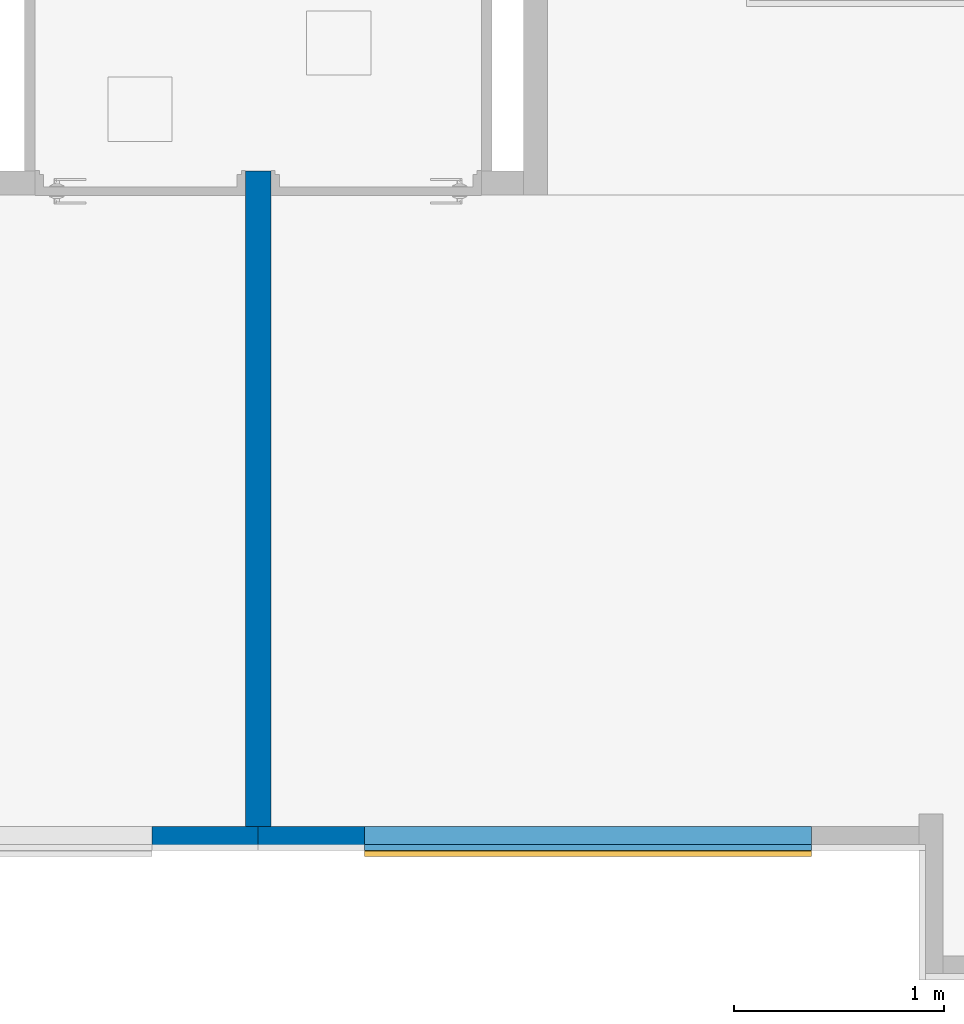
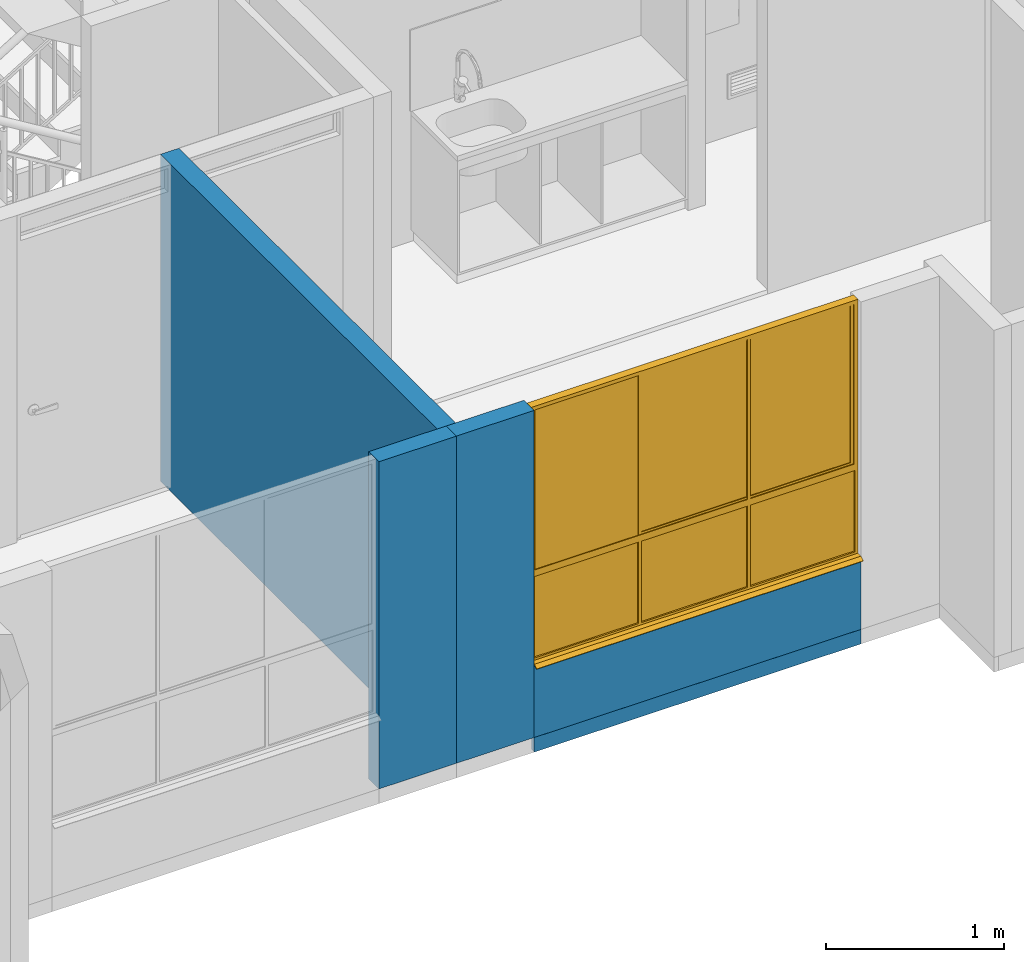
# One storey, part 11 of 51: 5 walls, 1 window, 1 opening.
"""IFC4 building model written with IfcOpenShell, lengths in metres."""

from ifc_helpers import new_model, entity, si_unit, converted_unit, derived_unit, direction, frame, origin, place, context, subcontext, project, spatial, indexed_curve, outline, extrude, polygons, source, transform, mapped, material, constituent, constituent_set, type_object, type_shapes, element, fill, save


model = new_model("IFC4")

# Units and contexts
model_context = context("Model", 3, precision=1e-05, world=origin(), true_north=direction((6.123031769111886e-17, 1.0)))
body_context = subcontext(model_context, "Body", "Model", "MODEL_VIEW")
ifc_project = project(units=[si_unit("LENGTHUNIT", "METRE"), si_unit("AREAUNIT", "SQUARE_METRE"), si_unit("VOLUMEUNIT", "CUBIC_METRE"), converted_unit("PLANEANGLEUNIT", "DEGREE", entity("IfcRatioMeasure", 0.017453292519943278), si_unit("PLANEANGLEUNIT", "RADIAN"), dimensions=[0, 0, 0, 0, 0, 0, 0]), si_unit("MASSUNIT", "GRAM", prefix="KILO"), derived_unit("MASSDENSITYUNIT", [(si_unit("MASSUNIT", "GRAM", prefix="KILO"), 1), (si_unit("LENGTHUNIT", "METRE"), -3)]), derived_unit("IONCONCENTRATIONUNIT", [(si_unit("MASSUNIT", "GRAM", prefix="KILO"), 1), (si_unit("LENGTHUNIT", "METRE"), -3)]), derived_unit("MOMENTOFINERTIAUNIT", [(si_unit("LENGTHUNIT", "METRE"), 4)]), si_unit("TIMEUNIT", "SECOND"), si_unit("FREQUENCYUNIT", "HERTZ"), si_unit("THERMODYNAMICTEMPERATUREUNIT", "DEGREE_CELSIUS"), derived_unit("THERMALTRANSMITTANCEUNIT", [(si_unit("MASSUNIT", "GRAM", prefix="KILO"), 1), (si_unit("THERMODYNAMICTEMPERATUREUNIT", "KELVIN"), -1), (si_unit("TIMEUNIT", "SECOND"), -3)]), derived_unit("THERMALCONDUCTANCEUNIT", [(si_unit("MASSUNIT", "GRAM", prefix="KILO"), 1), (si_unit("THERMODYNAMICTEMPERATUREUNIT", "KELVIN"), -1), (si_unit("TIMEUNIT", "SECOND"), -3), (si_unit("LENGTHUNIT", "METRE"), 1)]), derived_unit("VOLUMETRICFLOWRATEUNIT", [(si_unit("LENGTHUNIT", "METRE"), 3), (si_unit("TIMEUNIT", "SECOND"), -1)]), derived_unit("MASSFLOWRATEUNIT", [(si_unit("MASSUNIT", "GRAM", prefix="KILO"), 1), (si_unit("TIMEUNIT", "SECOND"), -1)]), derived_unit("ROTATIONALFREQUENCYUNIT", [(si_unit("TIMEUNIT", "SECOND"), -1)]), si_unit("ELECTRICCURRENTUNIT", "AMPERE"), si_unit("ELECTRICVOLTAGEUNIT", "VOLT"), si_unit("POWERUNIT", "WATT"), si_unit("FORCEUNIT", "NEWTON", prefix="KILO"), si_unit("ILLUMINANCEUNIT", "LUX"), si_unit("LUMINOUSFLUXUNIT", "LUMEN"), si_unit("LUMINOUSINTENSITYUNIT", "CANDELA"), derived_unit("USERDEFINED", [(si_unit("MASSUNIT", "GRAM", prefix="KILO"), -1), (si_unit("LENGTHUNIT", "METRE"), -2), (si_unit("TIMEUNIT", "SECOND"), 3), (si_unit("LUMINOUSFLUXUNIT", "LUMEN"), 1)]), derived_unit("USERDEFINED", [(si_unit("MASSUNIT", "GRAM", prefix="KILO"), 1), (si_unit("TIMEUNIT", "SECOND"), -3), (si_unit("LENGTHUNIT", "METRE"), 3), (si_unit("ELECTRICCURRENTUNIT", "AMPERE"), -2)]), derived_unit("SOUNDPOWERUNIT", [(si_unit("MASSUNIT", "GRAM", prefix="KILO"), 1), (si_unit("TIMEUNIT", "SECOND"), -3), (si_unit("LENGTHUNIT", "METRE"), 2)]), derived_unit("SOUNDPRESSUREUNIT", [(si_unit("MASSUNIT", "GRAM", prefix="KILO"), 1), (si_unit("LENGTHUNIT", "METRE"), -1), (si_unit("TIMEUNIT", "SECOND"), -2)]), derived_unit("LINEARVELOCITYUNIT", [(si_unit("LENGTHUNIT", "METRE"), 1), (si_unit("TIMEUNIT", "SECOND"), -1)]), si_unit("PRESSUREUNIT", "PASCAL"), derived_unit("USERDEFINED", [(si_unit("MASSUNIT", "GRAM", prefix="KILO"), 1), (si_unit("LENGTHUNIT", "METRE"), -2), (si_unit("TIMEUNIT", "SECOND"), -2)]), derived_unit("LINEARFORCEUNIT", [(si_unit("MASSUNIT", "GRAM", prefix="KILO"), 1), (si_unit("TIMEUNIT", "SECOND"), -2)]), derived_unit("PLANARFORCEUNIT", [(si_unit("MASSUNIT", "GRAM", prefix="KILO"), 1), (si_unit("LENGTHUNIT", "METRE"), -1), (si_unit("TIMEUNIT", "SECOND"), -2)]), derived_unit("SPECIFICHEATCAPACITYUNIT", [(si_unit("THERMODYNAMICTEMPERATUREUNIT", "KELVIN"), -1), (si_unit("LENGTHUNIT", "METRE"), 2), (si_unit("TIMEUNIT", "SECOND"), -2)]), derived_unit("HEATINGVALUEUNIT", [(si_unit("LENGTHUNIT", "METRE"), 2), (si_unit("TIMEUNIT", "SECOND"), -2)]), derived_unit("VAPORPERMEABILITYUNIT", [(si_unit("LENGTHUNIT", "METRE"), -1), (si_unit("TIMEUNIT", "SECOND"), 1)]), derived_unit("DYNAMICVISCOSITYUNIT", [(si_unit("MASSUNIT", "GRAM", prefix="KILO"), 1), (si_unit("TIMEUNIT", "SECOND"), -1), (si_unit("LENGTHUNIT", "METRE"), -1)]), derived_unit("THERMALEXPANSIONCOEFFICIENTUNIT", [(si_unit("THERMODYNAMICTEMPERATUREUNIT", "KELVIN"), -1)]), derived_unit("MODULUSOFELASTICITYUNIT", [(si_unit("MASSUNIT", "GRAM", prefix="KILO"), 1), (si_unit("LENGTHUNIT", "METRE"), -1), (si_unit("TIMEUNIT", "SECOND"), -2)]), derived_unit("ISOTHERMALMOISTURECAPACITYUNIT", [(si_unit("LENGTHUNIT", "METRE"), 3), (si_unit("MASSUNIT", "GRAM", prefix="KILO"), -1)]), derived_unit("MOISTUREDIFFUSIVITYUNIT", [(si_unit("TIMEUNIT", "SECOND"), -1), (si_unit("LENGTHUNIT", "METRE"), 2)])], contexts=[model_context])

# Site, building, storey
site_placement = place(None, origin())
site = spatial("IfcSite", under=ifc_project, at=site_placement, Name="Default", CompositionType="ELEMENT")
building_placement = place(site_placement, origin())
building = spatial("IfcBuilding", under=site, at=building_placement, CompositionType="ELEMENT")
storey_placement = place(building_placement, frame((0.0, 0.0, 2.350000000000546)))
storey = spatial("IfcBuildingStorey", under=building, at=storey_placement, Name="Nivel 2", CompositionType="ELEMENT", Elevation=2.350000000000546)

# Wall
ifc_material_1 = material(Name="Concreto (Aire)", Category="Materials")
wall_type_1 = type_object("IfcWallType", Name="Basic Wall:B2010 - 0.12m - Muro interior en concreto", PredefinedType="STANDARD")
wall_1_placement = place(storey_placement, frame((9.322500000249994, -9.024999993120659, 0.0), z_axis=(0.0, 0.0, 1.0), x_axis=(0.0, -1.0, 0.0)))
element("IfcWall", 1, at=wall_1_placement, inside=storey, type_object=wall_type_1, material=ifc_material_1, Name="Basic Wall:B2010 - 0.12m - Muro interior en concreto", ObjectType="Basic Wall:B2010 - 0.12m - Muro interior en concreto", PredefinedType="NOTDEFINED", context=body_context, shape_type="SweptSolid", body=[
    extrude(outline(indexed_curve([(3.1150000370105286, 0.06000000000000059), (-1.0719303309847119e-16, 0.060000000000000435), (1.0719303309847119e-16, -0.060000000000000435), (3.1150000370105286, -0.06000000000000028), (3.1150000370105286, 0.06000000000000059)], self_intersect=False)), origin(), (0.0, 0.0, 1.0), 2.2500000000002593),
])

# Wall, opening, window
ifc_material_2 = material(Name="Ladrillo claro (Aire)", Category="Materials")
wall_type_2 = type_object("IfcWallType", Name="Basic Wall:B2010 - 0.115m - Muro exterior en mampostería - Ladrillo", PredefinedType="STANDARD")
wall_2_placement = place(storey_placement, frame((11.952500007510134, -12.197500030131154, 0.0), z_axis=(0.0, 0.0, 1.0), x_axis=(-1.0, 0.0, 0.0)))
wall_2 = element("IfcWall", 2, at=wall_2_placement, inside=storey, type_object=wall_type_2, material=ifc_material_2, Name="Basic Wall:B2010 - 0.115m - Muro exterior en mampostería - Ladrillo", ObjectType="Basic Wall:B2010 - 0.115m - Muro exterior en mampostería - Ladrillo", PredefinedType="NOTDEFINED", context=body_context, shape_type="Tessellation", body=[
    polygons([(1.6266871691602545e-15, -0.057499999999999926, 0.0), (2.1249999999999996, -0.057499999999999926, 0.0), (2.1249999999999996, -0.057499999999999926, 0.49999999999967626), (1.6266871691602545e-15, -0.057499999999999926, 0.49999999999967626), (2.1249999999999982, 0.057499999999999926, 0.0), (6.252360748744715e-16, 0.057499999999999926, 0.0), (6.252360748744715e-16, 0.057499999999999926, 0.49999999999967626), (2.1249999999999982, 0.057499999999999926, 0.49999999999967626)], [[[1, 2, 3, 4]], [[5, 6, 7, 8]], [[2, 1, 6, 5]], [[2, 5, 8, 3]], [[6, 1, 4, 7]], [[4, 3, 8, 7]]], closed=True),
])
opening_placement = place(wall_2_placement, frame((0.0, -0.057499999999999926, 0.4999999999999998)))
opening = element("IfcOpeningElement", 3, at=opening_placement, cuts=wall_2, Name="B2020 - 6c Ventana corrediza - Aluminio + Vidrio:B2020 -2.13m x 1.750m - Ventana corrediza 2C - Aluminio + Vidrio:1", PredefinedType="OPENING", context=body_context, shape_type="SweptSolid", body=[
    extrude(outline(indexed_curve([(0.0, 2.125), (0.0, 0.0), (1.7499999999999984, 0.0), (1.7499999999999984, 2.125), (0.0, 2.125)], self_intersect=False)), frame((0.0, 0.0, 0.0), z_axis=(0.0, 1.0, 0.0), x_axis=(0.0, 0.0, 1.0)), (0.0, 0.0, 1.0), 0.115),
])
ifc_material_3 = material(Name="Aluminio", Category="Materials")
ifc_constituent_1 = constituent(ifc_material_3, Name="Aluminio", Category="Materials")
ifc_material_4 = material(Name="Vidrio", Category="Materials")
ifc_constituent_2 = constituent(ifc_material_4, Name="Vidrio", Category="Materials")
ifc_material_5 = material(Name="Alfajía en aluminio", Category="Materials")
ifc_constituent_3 = constituent(ifc_material_5, Name="Alfajía en aluminio", Category="Materials")
ifc_constituent_set_1 = constituent_set(constituents=[ifc_constituent_1, ifc_constituent_2, ifc_constituent_3])
ifc_constituent_4 = constituent(ifc_material_3, Name="Aluminio", Category="Materials")
ifc_constituent_5 = constituent(ifc_material_4, Name="Vidrio", Category="Materials")
ifc_constituent_6 = constituent(ifc_material_5, Name="Alfajía en aluminio", Category="Materials")
ifc_constituent_set_2 = constituent_set(constituents=[ifc_constituent_4, ifc_constituent_5, ifc_constituent_6])
window_type = type_object("IfcWindowType", Name="B2020 - 6c Ventana corrediza - Aluminio + Vidrio:B2020 -2.13m x 1.750m - Ventana corrediza 2C - Aluminio + Vidrio", PartitioningType="NOTDEFINED", PredefinedType="WINDOW", material=ifc_constituent_set_2)
shared_shape = source(origin(), body_context, "Body", "Tessellation", [
    polygons([(1.3916666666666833, 0.03749999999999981, 1.7249999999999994), (1.3916666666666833, 0.03749999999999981, 0.6249999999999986), (1.391666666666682, 0.032499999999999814, 0.6249999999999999), (1.3916666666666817, 0.032499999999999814, 1.7249999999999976), (-0.6833333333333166, 0.03249999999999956, 0.6249999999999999), (-0.6833333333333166, 0.032499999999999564, 1.7249999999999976), (-0.7083333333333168, 0.03249999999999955, 0.5999999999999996), (1.4166666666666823, 0.032499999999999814, 0.5999999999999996), (1.4166666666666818, 0.032499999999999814, 1.749999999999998), (-0.7083333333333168, 0.03249999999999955, 1.749999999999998), (-0.6833333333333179, 0.03749999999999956, 0.6249999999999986), (-0.6833333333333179, 0.03749999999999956, 1.7249999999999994), (-0.6883333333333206, 0.03749999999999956, 0.6199999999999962), (-0.6883333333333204, 0.03749999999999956, 1.7300000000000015), (1.3966666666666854, 0.03749999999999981, 1.7300000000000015), (1.3966666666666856, 0.03749999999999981, 0.6199999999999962), (1.3966666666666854, 0.05499999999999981, 1.7300000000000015), (1.3966666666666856, 0.05499999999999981, 0.6199999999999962), (-0.6883333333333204, 0.05499999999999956, 0.6199999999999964), (-0.6883333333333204, 0.05499999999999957, 1.7300000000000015), (-0.6833333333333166, 0.05499999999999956, 0.6249999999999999), (-0.6833333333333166, 0.05499999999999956, 1.7249999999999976), (1.3916666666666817, 0.05499999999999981, 1.7249999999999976), (1.391666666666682, 0.05499999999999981, 0.6249999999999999), (1.3916666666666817, 0.05999999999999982, 1.7249999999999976), (1.391666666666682, 0.05999999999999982, 0.6249999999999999), (-0.6833333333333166, 0.059999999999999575, 0.6249999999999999), (-0.6833333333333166, 0.059999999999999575, 1.7249999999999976), (-0.7033333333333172, 0.05999999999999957, 0.6049999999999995), (-0.7033333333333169, 0.05999999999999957, 1.744999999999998), (1.411666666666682, 0.05999999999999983, 1.744999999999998), (1.4116666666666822, 0.05999999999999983, 0.6049999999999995), (1.411666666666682, 0.07749999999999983, 1.744999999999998), (1.4116666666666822, 0.07749999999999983, 0.6049999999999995), (-0.7033333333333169, 0.07749999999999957, 0.6049999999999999), (-0.7033333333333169, 0.07749999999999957, 1.744999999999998), (-0.6833333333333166, 0.07749999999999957, 0.6249999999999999), (-0.6833333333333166, 0.07749999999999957, 1.7249999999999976), (1.3916666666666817, 0.07749999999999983, 1.7249999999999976), (1.391666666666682, 0.07749999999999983, 0.6249999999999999), (1.3916666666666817, 0.08249999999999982, 1.7249999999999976), (1.391666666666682, 0.08249999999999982, 0.6249999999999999), (-0.6833333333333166, 0.08249999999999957, 0.6249999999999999), (-0.6833333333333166, 0.08249999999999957, 1.7249999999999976), (-0.7083333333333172, 0.08249999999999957, 0.5999999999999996), (-0.7083333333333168, 0.08249999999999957, 1.749999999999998), (1.4166666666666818, 0.08249999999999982, 1.749999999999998), (1.4166666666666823, 0.08249999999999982, 0.5999999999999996)], [[[1, 2, 3, 4]], [[7, 8, 9, 10], [5, 6, 4, 3]], [[2, 11, 5, 3]], [[13, 14, 15, 16], [11, 2, 1, 12]], [[17, 18, 16, 15]], [[18, 19, 13, 16]], [[19, 18, 17, 20], [21, 22, 23, 24]], [[25, 26, 24, 23]], [[26, 27, 21, 24]], [[29, 30, 31, 32], [27, 26, 25, 28]], [[33, 34, 32, 31]], [[34, 35, 29, 32]], [[35, 34, 33, 36], [37, 38, 39, 40]], [[41, 42, 40, 39]], [[42, 43, 37, 40]], [[45, 46, 47, 48], [43, 42, 41, 44]], [[9, 8, 48, 47]], [[8, 7, 45, 48]], [[11, 12, 6, 5]], [[19, 20, 14, 13]], [[27, 28, 22, 21]], [[35, 36, 30, 29]], [[43, 44, 38, 37]], [[7, 10, 46, 45]], [[12, 1, 4, 6]], [[20, 17, 15, 14]], [[28, 25, 23, 22]], [[36, 33, 31, 30]], [[44, 41, 39, 38]], [[10, 9, 47, 46]]], closed=True),
    polygons([(-0.009999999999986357, 0.08249999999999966, 0.6249999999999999), (0.010000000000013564, 0.08249999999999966, 0.6249999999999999), (0.010000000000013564, 0.05999999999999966, 0.6249999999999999), (-0.009999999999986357, 0.05999999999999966, 0.6249999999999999), (-0.009999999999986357, 0.08249999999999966, 1.7249999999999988), (-0.009999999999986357, 0.05999999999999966, 1.7249999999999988), (0.010000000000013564, 0.05999999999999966, 1.7249999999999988), (0.010000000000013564, 0.08249999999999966, 1.7249999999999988)], [[[1, 2, 3, 4]], [[5, 1, 4, 6]], [[6, 4, 3, 7]], [[7, 3, 2, 8]], [[8, 2, 1, 5]], [[5, 6, 7, 8]]], closed=True),
    polygons([(0.7108333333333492, 0.06674999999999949, 1.7299999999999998), (-0.6833333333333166, 0.06674999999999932, 1.7299999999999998), (-0.6833333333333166, 0.06674999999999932, 0.6174999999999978), (0.7108333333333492, 0.06674999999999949, 0.6174999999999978), (0.7108333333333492, 0.0707499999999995, 0.6174999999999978), (0.7108333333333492, 0.0707499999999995, 1.7299999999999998), (-0.6833333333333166, 0.07074999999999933, 0.6174999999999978), (-0.6833333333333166, 0.07074999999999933, 1.7299999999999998)], [[[1, 2, 3, 4]], [[4, 5, 6, 1]], [[3, 7, 5, 4]], [[2, 8, 7, 3]], [[6, 5, 7, 8]], [[1, 6, 8, 2]]], closed=True),
    polygons([(0.7108333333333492, 0.07074999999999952, 0.6225000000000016), (-0.6783333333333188, 0.07074999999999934, 0.6225000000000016), (-0.6783333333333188, 0.06674999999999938, 0.6225000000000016), (0.7108333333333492, 0.06674999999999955, 0.6225000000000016), (-0.6783333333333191, 0.07074999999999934, 1.730000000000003), (-0.6783333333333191, 0.06674999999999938, 1.730000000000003), (0.7108333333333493, 0.06674999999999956, 1.730000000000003), (-0.6633333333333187, 0.06674999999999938, 1.7150000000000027), (-0.6633333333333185, 0.06674999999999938, 0.637500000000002), (0.695833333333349, 0.06674999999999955, 0.637500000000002), (0.695833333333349, 0.06674999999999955, 1.7150000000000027), (0.7108333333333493, 0.07074999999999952, 1.730000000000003), (-0.6633333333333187, 0.07074999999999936, 0.637500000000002), (-0.6633333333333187, 0.07074999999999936, 1.7150000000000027), (0.695833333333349, 0.07074999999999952, 1.7150000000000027), (0.695833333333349, 0.07074999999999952, 0.6375000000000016), (0.695833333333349, 0.07549999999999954, 0.637500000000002), (-0.6633333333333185, 0.07549999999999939, 0.6375000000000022), (-0.6633333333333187, 0.07549999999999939, 1.7150000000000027), (0.695833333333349, 0.07549999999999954, 1.7150000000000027), (-0.6833333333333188, 0.07549999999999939, 0.6175000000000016), (-0.683333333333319, 0.07549999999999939, 1.735000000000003), (0.7158333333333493, 0.07549999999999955, 1.735000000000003), (0.7158333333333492, 0.07549999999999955, 0.6175000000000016), (0.7158333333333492, 0.06199999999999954, 0.6175000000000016), (-0.6833333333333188, 0.061999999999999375, 0.6175000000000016), (-0.683333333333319, 0.061999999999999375, 1.735000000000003), (0.7158333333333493, 0.06199999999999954, 1.735000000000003), (-0.6633333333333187, 0.06199999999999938, 0.637500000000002), (-0.6633333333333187, 0.06199999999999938, 1.7150000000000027), (0.695833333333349, 0.06199999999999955, 1.7150000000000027), (0.695833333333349, 0.06199999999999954, 0.6375000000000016)], [[[1, 2, 3, 4]], [[2, 5, 6, 3]], [[3, 6, 7, 4], [8, 9, 10, 11]], [[5, 2, 1, 12], [13, 14, 15, 16]], [[17, 18, 13, 16]], [[18, 19, 14, 13]], [[21, 22, 23, 24], [19, 18, 17, 20]], [[25, 26, 21, 24]], [[26, 27, 22, 21]], [[27, 26, 25, 28], [29, 30, 31, 32]], [[10, 9, 29, 32]], [[9, 8, 30, 29]], [[12, 1, 4, 7]], [[20, 17, 16, 15]], [[28, 25, 24, 23]], [[11, 10, 32, 31]], [[5, 12, 7, 6]], [[19, 20, 15, 14]], [[27, 28, 23, 22]], [[8, 11, 31, 30]]], closed=True),
    polygons([(1.3916666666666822, 0.04424999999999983, 1.7299999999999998), (0.7033333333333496, 0.04424999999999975, 1.7299999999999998), (0.7033333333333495, 0.04424999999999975, 0.6174999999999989), (1.391666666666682, 0.04424999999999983, 0.6174999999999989), (1.391666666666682, 0.04824999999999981, 0.6174999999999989), (1.3916666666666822, 0.04824999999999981, 1.7299999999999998), (0.7033333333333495, 0.048249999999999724, 0.6174999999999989), (0.7033333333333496, 0.048249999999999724, 1.7299999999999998)], [[[1, 2, 3, 4]], [[4, 5, 6, 1]], [[3, 7, 5, 4]], [[2, 8, 7, 3]], [[6, 5, 7, 8]], [[1, 6, 8, 2]]], closed=True),
    polygons([(1.391666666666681, 0.04824999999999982, 0.6224999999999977), (0.7033333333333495, 0.04824999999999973, 0.6224999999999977), (0.7033333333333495, 0.044249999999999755, 0.6224999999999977), (1.391666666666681, 0.04424999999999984, 0.6224999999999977), (0.7033333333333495, 0.04824999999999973, 1.729999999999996), (0.7033333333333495, 0.044249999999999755, 1.729999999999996), (1.391666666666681, 0.04424999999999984, 1.729999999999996), (0.7183333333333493, 0.044249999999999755, 1.714999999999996), (0.7183333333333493, 0.044249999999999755, 0.6374999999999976), (1.3766666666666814, 0.04424999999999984, 0.6374999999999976), (1.3766666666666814, 0.04424999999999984, 1.714999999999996), (1.391666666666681, 0.04824999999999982, 1.729999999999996), (0.7183333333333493, 0.04824999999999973, 0.6374999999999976), (0.7183333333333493, 0.04824999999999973, 1.714999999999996), (1.3766666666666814, 0.04824999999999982, 1.714999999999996), (1.3766666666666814, 0.04824999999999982, 0.6374999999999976), (1.3766666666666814, 0.052999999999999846, 0.6374999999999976), (0.7183333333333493, 0.05299999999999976, 0.6374999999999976), (0.7183333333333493, 0.05299999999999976, 1.714999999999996), (1.3766666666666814, 0.052999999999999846, 1.714999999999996), (0.6983333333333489, 0.052999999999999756, 0.6174999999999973), (0.6983333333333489, 0.05299999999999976, 1.7349999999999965), (1.3966666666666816, 0.052999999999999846, 1.7349999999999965), (1.3966666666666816, 0.052999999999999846, 0.6174999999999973), (1.3966666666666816, 0.03949999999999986, 0.6174999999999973), (0.6983333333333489, 0.03949999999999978, 0.6174999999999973), (0.6983333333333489, 0.03949999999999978, 1.7349999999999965), (1.3966666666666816, 0.03949999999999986, 1.7349999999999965), (0.7183333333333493, 0.039499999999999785, 0.6374999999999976), (0.7183333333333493, 0.03949999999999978, 1.714999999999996), (1.3766666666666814, 0.039499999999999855, 1.714999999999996), (1.3766666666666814, 0.039499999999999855, 0.6374999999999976)], [[[1, 2, 3, 4]], [[2, 5, 6, 3]], [[3, 6, 7, 4], [8, 9, 10, 11]], [[5, 2, 1, 12], [13, 14, 15, 16]], [[17, 18, 13, 16]], [[18, 19, 14, 13]], [[21, 22, 23, 24], [19, 18, 17, 20]], [[25, 26, 21, 24]], [[26, 27, 22, 21]], [[27, 26, 25, 28], [29, 30, 31, 32]], [[10, 9, 29, 32]], [[9, 8, 30, 29]], [[12, 1, 4, 7]], [[20, 17, 16, 15]], [[28, 25, 24, 23]], [[11, 10, 32, 31]], [[5, 12, 7, 6]], [[19, 20, 15, 14]], [[27, 28, 23, 22]], [[8, 11, 31, 30]]], closed=True),
    polygons([(-0.6883333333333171, 0.04424999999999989, 1.7299999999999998), (-0.6883333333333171, 0.04424999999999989, 0.6174999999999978), (1.3916666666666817, 0.04424999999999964, 0.6174999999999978), (1.3916666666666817, 0.04424999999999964, 1.7299999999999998), (1.3916666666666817, 0.04824999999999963, 0.6174999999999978), (1.3916666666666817, 0.04824999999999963, 1.7299999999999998), (-0.6883333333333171, 0.04824999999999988, 0.6174999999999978), (-0.6883333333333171, 0.04824999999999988, 1.7299999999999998)], [[[1, 2, 3, 4]], [[3, 5, 6, 4]], [[2, 7, 5, 3]], [[1, 8, 7, 2]], [[8, 6, 5, 7]], [[4, 6, 8, 1]]], closed=True),
    polygons([(1.3966666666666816, 0.06674999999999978, 1.7299999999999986), (-0.6883333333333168, 0.06674999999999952, 1.7299999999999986), (-0.6883333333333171, 0.06674999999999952, 0.6174999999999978), (1.3966666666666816, 0.06674999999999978, 0.6174999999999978), (1.3966666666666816, 0.07074999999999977, 0.6174999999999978), (1.3966666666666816, 0.07074999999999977, 1.7299999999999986), (-0.6883333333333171, 0.07074999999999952, 0.6174999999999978), (-0.6883333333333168, 0.07074999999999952, 1.7299999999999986)], [[[1, 2, 3, 4]], [[4, 5, 6, 1]], [[3, 7, 5, 4]], [[2, 8, 7, 3]], [[6, 5, 7, 8]], [[1, 6, 8, 2]]], closed=True),
    polygons([(1.3966666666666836, 0.06813901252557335, 0.5800000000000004), (-0.6883333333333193, 0.06813901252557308, 0.5800000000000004), (-0.6883333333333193, 0.06813901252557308, 0.019999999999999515), (1.3966666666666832, 0.06813901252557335, 0.019999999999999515), (1.3966666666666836, 0.07213901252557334, 0.5800000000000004), (1.3966666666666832, 0.07213901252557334, 0.019999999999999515), (-0.6883333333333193, 0.07213901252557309, 0.019999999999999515), (-0.6883333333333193, 0.07213901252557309, 0.5800000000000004)], [[[1, 2, 3, 4]], [[5, 6, 7, 8]], [[4, 6, 5, 1]], [[3, 7, 6, 4]], [[2, 8, 7, 3]], [[1, 5, 8, 2]]], closed=True),
    polygons([(-0.009999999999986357, 0.08250000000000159, 0.5799999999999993), (-0.009999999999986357, 0.03250000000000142, 0.5799999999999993), (0.010000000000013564, 0.03250000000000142, 0.5799999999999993), (0.010000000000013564, 0.08250000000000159, 0.5799999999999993), (-0.009999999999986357, 0.08250000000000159, 0.019999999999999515), (0.010000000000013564, 0.08250000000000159, 0.019999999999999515), (0.010000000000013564, 0.03250000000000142, 0.019999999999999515), (-0.009999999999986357, 0.03250000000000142, 0.019999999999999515)], [[[1, 2, 3, 4]], [[5, 6, 7, 8]], [[4, 6, 5, 1]], [[3, 7, 6, 4]], [[2, 8, 7, 3]], [[1, 5, 8, 2]]], closed=True),
    polygons([(1.4166666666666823, 0.08249999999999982, 2.707167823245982e-16), (-0.7083333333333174, 0.08249999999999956, 4.060751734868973e-16), (-0.7083333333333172, 0.08249999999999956, 0.5999999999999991), (1.4166666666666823, 0.08249999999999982, 0.5999999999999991), (0.6983333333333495, 0.08250000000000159, 0.5799999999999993), (-0.6883333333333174, 0.0825000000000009, 0.5799999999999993), (-0.6883333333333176, 0.0825000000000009, 0.020000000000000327), (0.6983333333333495, 0.08250000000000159, 0.01999999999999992), (0.7183333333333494, 0.08250000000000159, 0.01999999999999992), (1.3966666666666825, 0.08250000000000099, 0.020000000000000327), (1.3966666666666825, 0.08250000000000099, 0.5799999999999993), (0.7183333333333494, 0.08250000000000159, 0.5799999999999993), (0.7183333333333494, 0.03250000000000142, 0.5799999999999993), (0.7183333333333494, 0.03250000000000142, 0.01999999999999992), (1.4166666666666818, 0.03250000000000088, 0.5999999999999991), (-0.7083333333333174, 0.0325000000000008, 0.5999999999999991), (-0.7083333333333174, 0.0325000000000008, 4.060751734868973e-16), (1.4166666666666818, 0.03250000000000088, 4.060751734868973e-16), (1.3966666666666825, 0.032499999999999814, 0.5799999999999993), (1.3966666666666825, 0.032499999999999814, 0.020000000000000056), (0.6983333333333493, 0.03250000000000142, 0.01999999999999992), (-0.6883333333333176, 0.03249999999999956, 0.020000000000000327), (-0.6883333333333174, 0.03249999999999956, 0.5799999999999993), (0.6983333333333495, 0.03250000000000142, 0.5799999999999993)], [[[1, 2, 3, 4], [5, 6, 7, 8], [9, 10, 11, 12]], [[12, 13, 14, 9]], [[15, 16, 17, 18], [13, 19, 20, 14], [21, 22, 23, 24]], [[8, 21, 24, 5]], [[11, 10, 20, 19]], [[15, 18, 1, 4]], [[10, 9, 14, 20]], [[18, 17, 2, 1]], [[7, 6, 23, 22]], [[17, 16, 3, 2]], [[6, 5, 24, 23]], [[4, 3, 16, 15]], [[19, 13, 12, 11]], [[22, 21, 8, 7]]], closed=True),
    polygons([(0.6983333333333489, 0.07213901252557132, 0.5849999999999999), (-0.6883333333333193, 0.07213901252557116, 0.5849999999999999), (-0.6883333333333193, 0.06813901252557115, 0.5849999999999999), (0.6983333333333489, 0.06813901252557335, 0.5849999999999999), (0.6983333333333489, 0.07213901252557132, 0.019999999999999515), (0.6983333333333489, 0.06813901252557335, 0.019999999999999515), (-0.6883333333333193, 0.06813901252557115, 0.019999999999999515), (-0.6883333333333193, 0.07213901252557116, 0.019999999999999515)], [[[1, 2, 3, 4]], [[5, 6, 7, 8]], [[1, 5, 8, 2]], [[2, 8, 7, 3]], [[3, 7, 6, 4]], [[4, 6, 5, 1]]], closed=True),
    polygons([(1.4166666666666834, 0.11499999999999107, -4.060751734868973e-16), (1.416666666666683, 0.1409807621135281, -0.015000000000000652), (1.416666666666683, 0.14348076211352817, -0.010669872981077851), (1.4166666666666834, 0.11633974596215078, 0.0049999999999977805), (1.4166666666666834, 0.08249999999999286, 0.0049999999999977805), (1.4166666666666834, 0.08249999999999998, -4.060751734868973e-16), (-0.7083333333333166, 0.11499999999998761, -4.060751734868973e-16), (-0.7083333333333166, 0.08249999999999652, -4.060751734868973e-16), (-0.7083333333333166, 0.0824999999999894, 0.0049999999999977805), (-0.7083333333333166, 0.11633974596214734, 0.0049999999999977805), (-0.7083333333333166, 0.1434807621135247, -0.010669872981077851), (-0.7083333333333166, 0.14098076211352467, -0.015000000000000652)], [[[1, 2, 3, 4, 5, 6]], [[7, 8, 9, 10, 11, 12]], [[6, 8, 7, 1]], [[5, 9, 8, 6]], [[4, 10, 9, 5]], [[3, 11, 10, 4]], [[2, 12, 11, 3]], [[1, 7, 12, 2]]], closed=True),
    polygons([(0.7183333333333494, 0.07213901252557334, 0.5849999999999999), (0.7183333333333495, 0.06813901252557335, 0.5849999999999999), (1.3966666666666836, 0.06813901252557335, 0.5849999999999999), (1.3966666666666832, 0.07213901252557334, 0.5849999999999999), (0.7183333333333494, 0.07213901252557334, 0.019999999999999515), (1.3966666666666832, 0.07213901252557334, 0.019999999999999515), (1.3966666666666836, 0.06813901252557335, 0.019999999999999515), (0.7183333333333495, 0.06813901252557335, 0.019999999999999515)], [[[1, 2, 3, 4]], [[5, 6, 7, 8]], [[4, 6, 5, 1]], [[3, 7, 6, 4]], [[2, 8, 7, 3]], [[1, 5, 8, 2]]], closed=True),
])
type_shapes(window_type, [shared_shape])
window_placement = place(opening_placement, frame((0.7083333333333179, 0.0, 0.0)))
window = element("IfcWindow", 4, at=window_placement, inside=storey, type_object=window_type, material=ifc_constituent_set_1, Name="B2020 - 6c Ventana corrediza - Aluminio + Vidrio:B2020 -2.13m x 1.750m - Ventana corrediza 2C - Aluminio + Vidrio", ObjectType="B2020 - 6c Ventana corrediza - Aluminio + Vidrio:B2020 -2.13m x 1.750m - Ventana corrediza 2C - Aluminio + Vidrio", OverallHeight=1.7499999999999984, OverallWidth=2.125, PartitioningType="NOTDEFINED", PredefinedType="WINDOW", context=body_context, shape_type="MappedRepresentation", body=[
    mapped(shared_shape, transform((0.0, 0.0, 0.0), scale=1.0)),
])
fill(opening, window)

# Walls
ifc_material_6 = material(Name="LADRILLO CLARO", Category="Materials")
wall_type_3 = type_object("IfcWallType", Name="Basic Wall:B2010 - 0.115m - ME mampostería no estructural - Ladrillo", PredefinedType="STANDARD")
wall_3_placement = place(storey_placement, frame((8.817499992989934, -12.197500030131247, 0.0)))
element("IfcWall", 5, at=wall_3_placement, inside=storey, type_object=wall_type_3, material=ifc_material_6, Name="Basic Wall:B2010 - 0.115m - ME mampostería no estructural - Ladrillo", ObjectType="Basic Wall:B2010 - 0.115m - ME mampostería no estructural - Ladrillo", PredefinedType="NOTDEFINED", context=body_context, shape_type="SweptSolid", body=[
    extrude(outline(indexed_curve([(0.5050000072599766, 0.05749999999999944), (1.5136500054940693e-16, 0.057499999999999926), (-1.5136500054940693e-16, -0.057499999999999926), (0.5050000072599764, -0.057500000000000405), (0.5050000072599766, 0.05749999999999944)], self_intersect=False)), origin(), (0.0, 0.0, 1.0), 2.2500000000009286),
])
wall_4_placement = place(storey_placement, frame((9.82750000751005, -12.197500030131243, 0.0), z_axis=(0.0, 0.0, 1.0), x_axis=(-1.0, 0.0, 0.0)))
element("IfcWall", 6, at=wall_4_placement, inside=storey, type_object=wall_type_3, material=ifc_material_6, Name="Basic Wall:B2010 - 0.115m - ME mampostería no estructural - Ladrillo", ObjectType="Basic Wall:B2010 - 0.115m - ME mampostería no estructural - Ladrillo", PredefinedType="NOTDEFINED", context=body_context, shape_type="SweptSolid", body=[
    extrude(outline(indexed_curve([(0.5050000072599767, 0.05750000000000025), (2.0895521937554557e-16, 0.057499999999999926), (-2.0895521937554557e-16, -0.057499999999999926), (0.5050000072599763, -0.05749999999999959), (0.5050000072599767, 0.05750000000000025)], self_intersect=False)), origin(), (0.0, 0.0, 1.0), 2.2500000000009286),
])
wall_type_4 = type_object("IfcWallType", Name="Basic Wall:B2010 - 0.03m - ME enchape  no estructural - Ladrillo", PredefinedType="STANDARD")
wall_5_placement = place(storey_placement, frame((9.827500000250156, -12.240000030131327, -0.10000000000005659)))
element("IfcWall", 7, at=wall_5_placement, inside=storey, type_object=wall_type_4, material=ifc_material_6, Name="Basic Wall:B2010 - 0.03m - ME enchape  no estructural - Ladrillo", ObjectType="Basic Wall:B2010 - 0.03m - ME enchape  no estructural - Ladrillo", PredefinedType="NOTDEFINED", context=body_context, shape_type="SweptSolid", body=[
    extrude(outline(indexed_curve([(2.125000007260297, 0.015000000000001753), (-5.1729321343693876e-17, 0.015000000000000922), (5.1729321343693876e-17, -0.015000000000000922), (2.125000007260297, -0.01500000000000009), (2.125000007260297, 0.015000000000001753)], self_intersect=False)), origin(), (0.0, 0.0, 1.0), 0.1),
])

save(model, "model.ifc")
